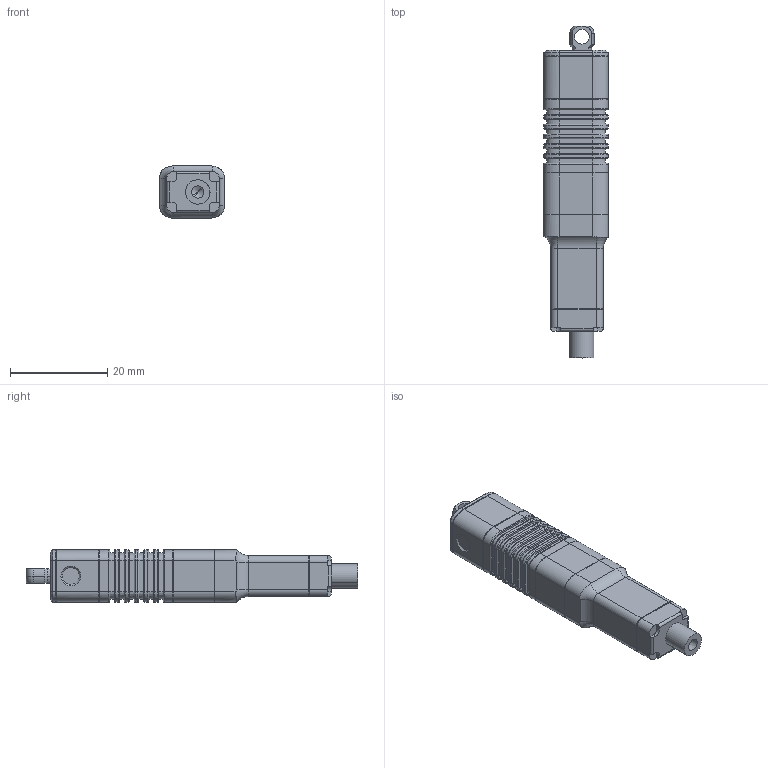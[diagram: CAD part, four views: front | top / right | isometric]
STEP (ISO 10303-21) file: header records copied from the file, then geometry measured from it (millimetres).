
FILE_DESCRIPTION (( 'STEP AP203' ), '1' );
FILE_NAME ('LA10-0x3D-ACBO-S30.STEP', '2021-11-26T10:53:33', ( '' ), ( '' ), 'SwSTEP 2.0', 'SolidWorks 2021', '' );
FILE_SCHEMA (( 'CONFIG_CONTROL_DESIGN' ));
Length unit declared in the file: millimetre
Products named in the file (6): exA8201XX-008L____________Rev.14.STEP; ACBO-S30.STEP; LA10-0x3D-ACBO-S30; Part2^LA10-0x3D-ACBO-S30.STEP; exA820109-015_______________.STEP; SS1x3_____________.STEP
Assembly tree (6 placements, depth 2):
  LA10-0x3D-ACBO-S30
    exA820109-015_______________.STEP
    Part2^LA10-0x3D-ACBO-S30.STEP
    exA8201XX-008L____________Rev.14.STEP
    SS1x3_____________.STEP  x2
    ACBO-S30.STEP
Bounding box: 13.2 x 68.2 x 10.8 mm (x, y, z)
Volume: 7012 mm3; surface area: 3749.8 mm2
Topology: 6 solids, 7 shells, 554 faces, 1336 edges, 819 vertices
Faces by surface type: plane 234, bspline 144, cylinder 133, cone 29, torus 14
Entity records: 24410 total; most frequent: CARTESIAN_POINT 12407, ORIENTED_EDGE 2532, DIRECTION 2044, EDGE_CURVE 1266, VERTEX_POINT 777, AXIS2_PLACEMENT_3D 694, VECTOR 656, LINE 656
